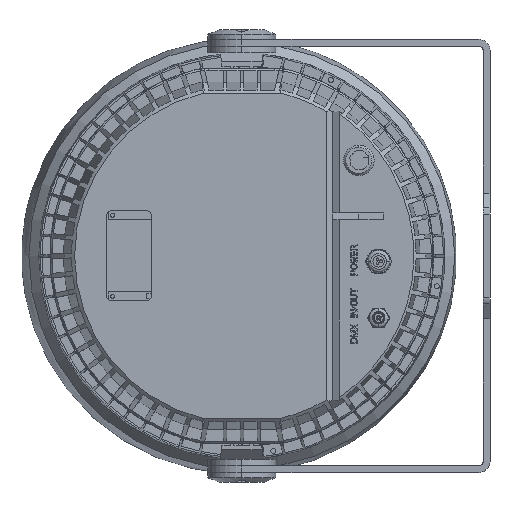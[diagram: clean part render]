
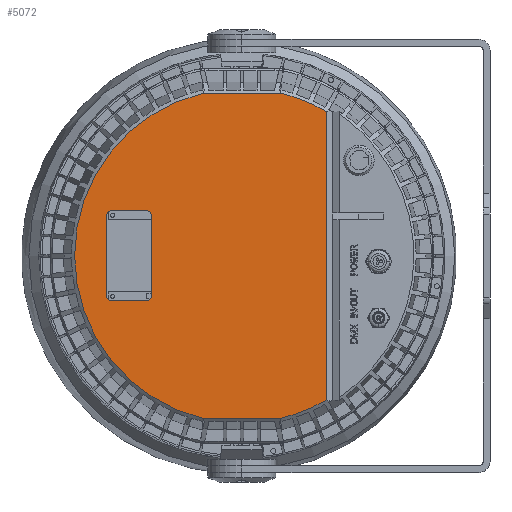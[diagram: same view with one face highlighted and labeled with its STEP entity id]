
A CAD part, top view. The second image highlights one B-rep face of the part: STEP entity #5072.
In plain terms, the highlighted planar face has unit normal (0, 0, 1).
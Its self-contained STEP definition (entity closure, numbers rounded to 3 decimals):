
#391 = DIRECTION ( 'NONE',  ( 0., 1., 0. ) ) ;
#696 = CARTESIAN_POINT ( 'NONE',  ( 125.91, 174.738, 93.499 ) ) ;
#961 = CARTESIAN_POINT ( 'NONE',  ( 85.91, 244.738, 93.499 ) ) ;
#1450 = AXIS2_PLACEMENT_3D ( 'NONE', #58356, #58263, #58200 ) ;
#2519 = VERTEX_POINT ( 'NONE', #36810 ) ;
#5002 = CIRCLE ( 'NONE', #1450, 5. ) ;
#5072 = ADVANCED_FACE ( 'NONE', ( #33562, #33682 ), #38608, .T. ) ;
#5194 = DIRECTION ( 'NONE',  ( 0., 1., 0. ) ) ;
#6533 = CARTESIAN_POINT ( 'NONE',  ( 125.91, 244.738, 93.499 ) ) ;
#6536 = CARTESIAN_POINT ( 'NONE',  ( 240.058, 353.938, 93.499 ) ) ;
#7308 = CARTESIAN_POINT ( 'NONE',  ( 120.91, 249.738, 93.499 ) ) ;
#7936 = CARTESIAN_POINT ( 'NONE',  ( 280.91, 209.738, 93.499 ) ) ;
#8244 = DIRECTION ( 'NONE',  ( 0., 1., 0. ) ) ;
#8666 = CARTESIAN_POINT ( 'NONE',  ( 171.762, 353.938, 93.499 ) ) ;
#10750 = VERTEX_POINT ( 'NONE', #696 ) ;
#12675 = VECTOR ( 'NONE', #50400, 1000. ) ;
#14121 = VERTEX_POINT ( 'NONE', #30407 ) ;
#15280 = VERTEX_POINT ( 'NONE', #27522 ) ;
#15772 = DIRECTION ( 'NONE',  ( 0., 0., -1. ) ) ;
#17578 = ORIENTED_EDGE ( 'NONE', *, *, #55764, .T. ) ;
#17673 = CARTESIAN_POINT ( 'NONE',  ( 90.91, 169.738, 93.499 ) ) ;
#17885 = DIRECTION ( 'NONE',  ( -1., 0., 0. ) ) ;
#19518 = ORIENTED_EDGE ( 'NONE', *, *, #55665, .T. ) ;
#20284 = VERTEX_POINT ( 'NONE', #6536 ) ;
#20658 = ORIENTED_EDGE ( 'NONE', *, *, #53445, .T. ) ;
#21090 = CARTESIAN_POINT ( 'NONE',  ( 85.91, 244.738, 93.499 ) ) ;
#21569 = ORIENTED_EDGE ( 'NONE', *, *, #58055, .T. ) ;
#22039 = ORIENTED_EDGE ( 'NONE', *, *, #61698, .T. ) ;
#22127 = LINE ( 'NONE', #961, #34056 ) ;
#22231 = VERTEX_POINT ( 'NONE', #8666 ) ;
#22807 = ORIENTED_EDGE ( 'NONE', *, *, #55989, .T. ) ;
#23248 = VERTEX_POINT ( 'NONE', #50168 ) ;
#23679 = DIRECTION ( 'NONE',  ( 0., -1., 0. ) ) ;
#23780 = ORIENTED_EDGE ( 'NONE', *, *, #61972, .T. ) ;
#24143 = LINE ( 'NONE', #49981, #12675 ) ;
#24425 = VECTOR ( 'NONE', #17885, 1000. ) ;
#24717 = CARTESIAN_POINT ( 'NONE',  ( 125.91, 174.738, 93.499 ) ) ;
#24860 = ORIENTED_EDGE ( 'NONE', *, *, #62275, .T. ) ;
#25169 = CARTESIAN_POINT ( 'NONE',  ( 90.91, 249.738, 93.499 ) ) ;
#25625 = ORIENTED_EDGE ( 'NONE', *, *, #28482, .T. ) ;
#26436 = ORIENTED_EDGE ( 'NONE', *, *, #61971, .T. ) ;
#27522 = CARTESIAN_POINT ( 'NONE',  ( 85.91, 174.738, 93.499 ) ) ;
#27583 = ORIENTED_EDGE ( 'NONE', *, *, #57961, .T. ) ;
#28058 = ORIENTED_EDGE ( 'NONE', *, *, #57405, .T. ) ;
#28099 = CARTESIAN_POINT ( 'NONE',  ( 120.91, 169.738, 93.499 ) ) ;
#28482 = EDGE_CURVE ( 'NONE', #49691, #60021, #5002, .T. ) ;
#28648 = ORIENTED_EDGE ( 'NONE', *, *, #55594, .T. ) ;
#30407 = CARTESIAN_POINT ( 'NONE',  ( 240.058, 65.538, 93.499 ) ) ;
#30872 = ORIENTED_EDGE ( 'NONE', *, *, #55480, .T. ) ;
#31519 = CARTESIAN_POINT ( 'NONE',  ( 90.91, 174.738, 93.499 ) ) ;
#31520 = CIRCLE ( 'NONE', #40563, 148.188 ) ;
#32388 = VERTEX_POINT ( 'NONE', #21090 ) ;
#33562 = FACE_BOUND ( 'NONE', #41136, .T. ) ;
#33682 = FACE_OUTER_BOUND ( 'NONE', #40397, .T. ) ;
#34056 = VECTOR ( 'NONE', #391, 1000. ) ;
#34228 = AXIS2_PLACEMENT_3D ( 'NONE', #31519, #15772, #5194 ) ;
#34661 = AXIS2_PLACEMENT_3D ( 'NONE', #50490, #50405, #50332 ) ;
#35104 = LINE ( 'NONE', #17673, #24425 ) ;
#35449 = AXIS2_PLACEMENT_3D ( 'NONE', #41889, #42016, #42173 ) ;
#36494 = CIRCLE ( 'NONE', #35449, 148.188 ) ;
#36810 = CARTESIAN_POINT ( 'NONE',  ( 280.91, 337.545, 93.499 ) ) ;
#38062 = DIRECTION ( 'NONE',  ( 0., 1., 0. ) ) ;
#38264 = DIRECTION ( 'NONE',  ( 0., 0., 1. ) ) ;
#38608 = PLANE ( 'NONE',  #40747 ) ;
#39633 = DIRECTION ( 'NONE',  ( 0., 1., 0. ) ) ;
#39791 = CARTESIAN_POINT ( 'NONE',  ( 205.91, 209.738, 93.499 ) ) ;
#39852 = DIRECTION ( 'NONE',  ( 0., 0., -1. ) ) ;
#39924 = CARTESIAN_POINT ( 'NONE',  ( 120.91, 174.738, 93.499 ) ) ;
#40351 = DIRECTION ( 'NONE',  ( 1., 0., 0. ) ) ;
#40397 = EDGE_LOOP ( 'NONE', ( #22807, #22039, #21569, #20658, #19518, #17578 ) ) ;
#40563 = AXIS2_PLACEMENT_3D ( 'NONE', #51951, #51882, #51872 ) ;
#40747 = AXIS2_PLACEMENT_3D ( 'NONE', #39791, #38264, #38062 ) ;
#40862 = CARTESIAN_POINT ( 'NONE',  ( 120.91, 249.738, 93.499 ) ) ;
#41136 = EDGE_LOOP ( 'NONE', ( #30872, #28648, #28058, #27583, #26436, #25625, #24860, #23780 ) ) ;
#41143 = VERTEX_POINT ( 'NONE', #28099 ) ;
#41166 = AXIS2_PLACEMENT_3D ( 'NONE', #57696, #57639, #57621 ) ;
#41889 = CARTESIAN_POINT ( 'NONE',  ( 205.91, 209.738, 93.499 ) ) ;
#42016 = DIRECTION ( 'NONE',  ( 0., 0., 1. ) ) ;
#42173 = DIRECTION ( 'NONE',  ( -1., 0., 0. ) ) ;
#45748 = CIRCLE ( 'NONE', #34228, 5. ) ;
#47523 = VERTEX_POINT ( 'NONE', #25169 ) ;
#47624 = VECTOR ( 'NONE', #23679, 1000. ) ;
#49138 = LINE ( 'NONE', #24717, #47624 ) ;
#49691 = VERTEX_POINT ( 'NONE', #7308 ) ;
#49981 = CARTESIAN_POINT ( 'NONE',  ( 205.91, 353.938, 93.499 ) ) ;
#50168 = CARTESIAN_POINT ( 'NONE',  ( 90.91, 169.738, 93.499 ) ) ;
#50332 = DIRECTION ( 'NONE',  ( 0., -1., 0. ) ) ;
#50400 = DIRECTION ( 'NONE',  ( -1., 0., 0. ) ) ;
#50405 = DIRECTION ( 'NONE',  ( 0., 0., 1. ) ) ;
#50490 = CARTESIAN_POINT ( 'NONE',  ( 205.91, 209.738, 93.499 ) ) ;
#51202 = CARTESIAN_POINT ( 'NONE',  ( 280.91, 81.93, 93.499 ) ) ;
#51872 = DIRECTION ( 'NONE',  ( -1., 0., 0. ) ) ;
#51882 = DIRECTION ( 'NONE',  ( 0., 0., 1. ) ) ;
#51951 = CARTESIAN_POINT ( 'NONE',  ( 205.91, 209.738, 93.499 ) ) ;
#53065 = VECTOR ( 'NONE', #40351, 1000. ) ;
#53185 = CIRCLE ( 'NONE', #59856, 5. ) ;
#53445 = EDGE_CURVE ( 'NONE', #55785, #2519, #56462, .T. ) ;
#54203 = LINE ( 'NONE', #40862, #53065 ) ;
#55480 = EDGE_CURVE ( 'NONE', #41143, #23248, #35104, .T. ) ;
#55594 = EDGE_CURVE ( 'NONE', #23248, #15280, #45748, .T. ) ;
#55665 = EDGE_CURVE ( 'NONE', #2519, #20284, #36494, .T. ) ;
#55764 = EDGE_CURVE ( 'NONE', #20284, #22231, #24143, .T. ) ;
#55785 = VERTEX_POINT ( 'NONE', #51202 ) ;
#55989 = EDGE_CURVE ( 'NONE', #22231, #57927, #58040, .T. ) ;
#56462 = LINE ( 'NONE', #7936, #56567 ) ;
#56567 = VECTOR ( 'NONE', #8244, 1000. ) ;
#56961 = DIRECTION ( 'NONE',  ( 1., 0., 0. ) ) ;
#57349 = CARTESIAN_POINT ( 'NONE',  ( 205.91, 65.538, 93.499 ) ) ;
#57405 = EDGE_CURVE ( 'NONE', #15280, #32388, #22127, .T. ) ;
#57621 = DIRECTION ( 'NONE',  ( 0., 1., 0. ) ) ;
#57639 = DIRECTION ( 'NONE',  ( 0., 0., -1. ) ) ;
#57696 = CARTESIAN_POINT ( 'NONE',  ( 90.91, 244.738, 93.499 ) ) ;
#57927 = VERTEX_POINT ( 'NONE', #59546 ) ;
#57961 = EDGE_CURVE ( 'NONE', #32388, #47523, #58634, .T. ) ;
#58040 = CIRCLE ( 'NONE', #34661, 148.188 ) ;
#58055 = EDGE_CURVE ( 'NONE', #14121, #55785, #31520, .T. ) ;
#58200 = DIRECTION ( 'NONE',  ( 0., 1., 0. ) ) ;
#58222 = VECTOR ( 'NONE', #56961, 1000. ) ;
#58263 = DIRECTION ( 'NONE',  ( 0., 0., -1. ) ) ;
#58356 = CARTESIAN_POINT ( 'NONE',  ( 120.91, 244.738, 93.499 ) ) ;
#58634 = CIRCLE ( 'NONE', #41166, 5. ) ;
#58726 = LINE ( 'NONE', #57349, #58222 ) ;
#59546 = CARTESIAN_POINT ( 'NONE',  ( 171.762, 65.538, 93.499 ) ) ;
#59856 = AXIS2_PLACEMENT_3D ( 'NONE', #39924, #39852, #39633 ) ;
#60021 = VERTEX_POINT ( 'NONE', #6533 ) ;
#61698 = EDGE_CURVE ( 'NONE', #57927, #14121, #58726, .T. ) ;
#61971 = EDGE_CURVE ( 'NONE', #47523, #49691, #54203, .T. ) ;
#61972 = EDGE_CURVE ( 'NONE', #10750, #41143, #53185, .T. ) ;
#62275 = EDGE_CURVE ( 'NONE', #60021, #10750, #49138, .T. ) ;
